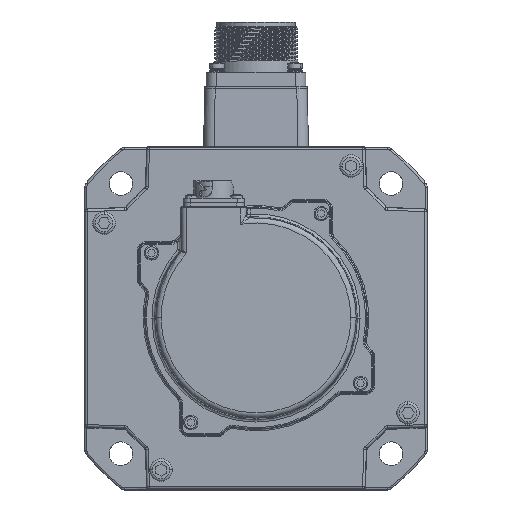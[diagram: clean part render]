
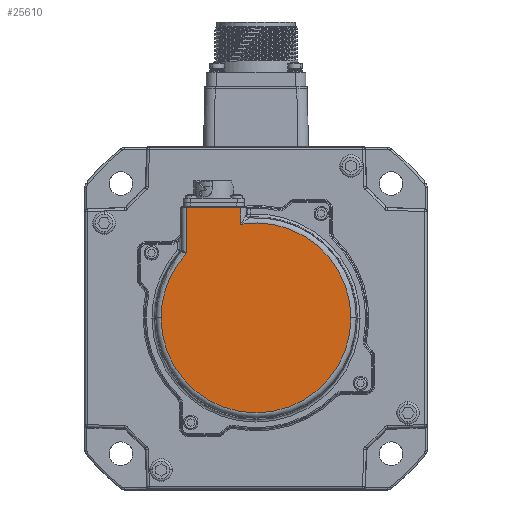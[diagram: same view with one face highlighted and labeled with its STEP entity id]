
A CAD part, top view. The second image highlights one B-rep face of the part: STEP entity #25610.
In plain terms, the highlighted planar face has unit normal (0, 0, 1).
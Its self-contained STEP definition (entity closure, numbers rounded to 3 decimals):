
#119 = DIRECTION ( 'NONE',  ( 0., -1., 0. ) ) ;
#1700 = CARTESIAN_POINT ( 'NONE',  ( 27.163, -56.273, 9.963 ) ) ;
#6416 = FACE_OUTER_BOUND ( 'NONE', #42846, .T. ) ;
#7929 = CARTESIAN_POINT ( 'NONE',  ( -35.157, -31.624, 9.963 ) ) ;
#9409 = CARTESIAN_POINT ( 'NONE',  ( -14.587, -20.695, 9.963 ) ) ;
#10494 = CARTESIAN_POINT ( 'NONE',  ( -8.872, -56.273, 9.963 ) ) ;
#19910 = DIRECTION ( 'NONE',  ( 0., 0., 1. ) ) ;
#23230 = DIRECTION ( 'NONE',  ( -1., 0., 0. ) ) ;
#24396 = VECTOR ( 'NONE', #35140, 1000. ) ;
#25610 = ADVANCED_FACE ( 'NONE', ( #6416 ), #142091, .T. ) ;
#27790 = EDGE_CURVE ( 'NONE', #155796, #155659, #65272, .T. ) ;
#28258 = EDGE_CURVE ( 'NONE', #155659, #153760, #47303, .T. ) ;
#31555 = EDGE_CURVE ( 'NONE', #153760, #133393, #121811, .T. ) ;
#33626 = AXIS2_PLACEMENT_3D ( 'NONE', #95626, #19910, #108285 ) ;
#35140 = DIRECTION ( 'NONE',  ( -1., 0., 0. ) ) ;
#39445 = AXIS2_PLACEMENT_3D ( 'NONE', #129517, #117388, #41745 ) ;
#41745 = DIRECTION ( 'NONE',  ( -1., 0., 0. ) ) ;
#42846 = EDGE_LOOP ( 'NONE', ( #133691, #139812, #144647, #145175, #148822, #149448 ) ) ;
#47303 = CIRCLE ( 'NONE', #65149, 36.035 ) ;
#47830 = CARTESIAN_POINT ( 'NONE',  ( -8.872, -14.523, 9.963 ) ) ;
#50038 = LINE ( 'NONE', #47830, #24396 ) ;
#53905 = VECTOR ( 'NONE', #119, 1000. ) ;
#57895 = LINE ( 'NONE', #85717, #53905 ) ;
#60050 = CARTESIAN_POINT ( 'NONE',  ( -8.872, -56.273, 9.963 ) ) ;
#65149 = AXIS2_PLACEMENT_3D ( 'NONE', #60050, #148179, #72754 ) ;
#65272 = CIRCLE ( 'NONE', #88324, 36.035 ) ;
#70180 = DIRECTION ( 'NONE',  ( 0., 1., 0. ) ) ;
#72754 = DIRECTION ( 'NONE',  ( -1., 0., 0. ) ) ;
#79819 = VERTEX_POINT ( 'NONE', #91149 ) ;
#83598 = EDGE_CURVE ( 'NONE', #92132, #155796, #57895, .T. ) ;
#85717 = CARTESIAN_POINT ( 'NONE',  ( -35.157, -56.273, 9.963 ) ) ;
#87422 = LINE ( 'NONE', #145633, #117061 ) ;
#88324 = AXIS2_PLACEMENT_3D ( 'NONE', #10494, #98890, #23230 ) ;
#91149 = CARTESIAN_POINT ( 'NONE',  ( -14.587, -14.523, 9.963 ) ) ;
#92132 = VERTEX_POINT ( 'NONE', #134757 ) ;
#95626 = CARTESIAN_POINT ( 'NONE',  ( -8.872, -56.273, 9.963 ) ) ;
#98890 = DIRECTION ( 'NONE',  ( 0., 0., 1. ) ) ;
#108285 = DIRECTION ( 'NONE',  ( -1., 0., 0. ) ) ;
#117061 = VECTOR ( 'NONE', #70180, 1000. ) ;
#117388 = DIRECTION ( 'NONE',  ( 0., 0., 1. ) ) ;
#121811 = CIRCLE ( 'NONE', #33626, 36.035 ) ;
#129517 = CARTESIAN_POINT ( 'NONE',  ( -8.872, -56.273, 9.963 ) ) ;
#131082 = CARTESIAN_POINT ( 'NONE',  ( -44.907, -56.273, 9.963 ) ) ;
#133393 = VERTEX_POINT ( 'NONE', #9409 ) ;
#133691 = ORIENTED_EDGE ( 'NONE', *, *, #156224, .T. ) ;
#134757 = CARTESIAN_POINT ( 'NONE',  ( -35.157, -14.523, 9.963 ) ) ;
#139812 = ORIENTED_EDGE ( 'NONE', *, *, #161285, .T. ) ;
#142091 = PLANE ( 'NONE',  #39445 ) ;
#144647 = ORIENTED_EDGE ( 'NONE', *, *, #83598, .T. ) ;
#145175 = ORIENTED_EDGE ( 'NONE', *, *, #27790, .T. ) ;
#145633 = CARTESIAN_POINT ( 'NONE',  ( -14.587, -56.273, 9.963 ) ) ;
#148179 = DIRECTION ( 'NONE',  ( 0., 0., 1. ) ) ;
#148822 = ORIENTED_EDGE ( 'NONE', *, *, #28258, .T. ) ;
#149448 = ORIENTED_EDGE ( 'NONE', *, *, #31555, .T. ) ;
#153760 = VERTEX_POINT ( 'NONE', #1700 ) ;
#155659 = VERTEX_POINT ( 'NONE', #131082 ) ;
#155796 = VERTEX_POINT ( 'NONE', #7929 ) ;
#156224 = EDGE_CURVE ( 'NONE', #133393, #79819, #87422, .T. ) ;
#161285 = EDGE_CURVE ( 'NONE', #79819, #92132, #50038, .T. ) ;
